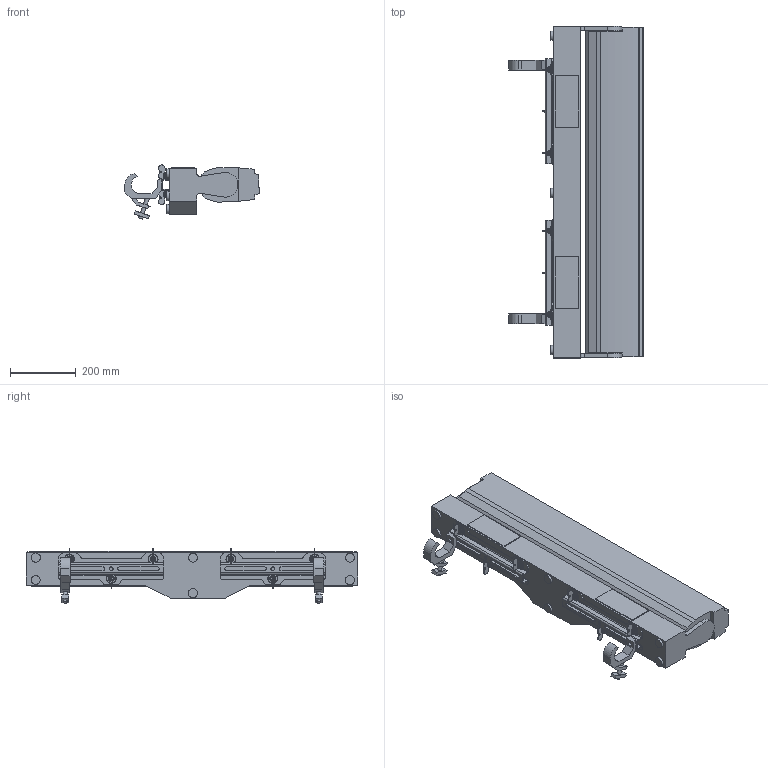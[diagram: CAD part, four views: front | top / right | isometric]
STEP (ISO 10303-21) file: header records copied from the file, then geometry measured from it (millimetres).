
FILE_DESCRIPTION(/* description */ ('Unknown'),/* implementation_level */ '2;1');
FILE_NAME(/* name */ '3D_TETRA2_with CL',/* time_stamp */ '2020-02-20T11:26:52+01:00',/* author */ ('Ing.Rostislav HĂˇba'),/* organization */ ('ROBE lighting'),/* preprocessor_version */ 'ST-DEVELOPER v16.7',/* originating_system */ 'Solid Edge',/* authorisation */ 'Unknown');
FILE_SCHEMA (('AP203_CONFIGURATION_CONTROLLED_3D_DESIGN_OF_MECHANICAL_PARTS_AND_ASSEMBLIES_MIM_LF { 1 0 10303 203 3 1 4 }','AUTOMOTIVE_DESIGN {1 0 10303 214 3 1 1}'));
Length unit declared in the file: millimetre
Products named in the file (12): 3D_TETRA2; TETRA_Base; TETRA_Head; 99016241 Kotevní závìs s CAMLOC 9 - TT; 11017080 Z嫛鮀 TT; 17030135 Talíøová pružina 28; 17030152 Kolík 4x14 DIN1475; 18060293 Šroub CAMLOC 9 s køidélkem - jednostranný; 18060287 Šroub CAMLOC 9+; 11017078 Køidelko CAMLOC 9 - jednostranné; 11017079 Podložení pružin Camlock; Clamp Doughty Slimline QT
Assembly tree (27 placements, depth 4):
  3D_TETRA2
    TETRA_Base
    TETRA_Head
    99016241 Kotevní závìs s CAMLOC 9 - TT  x2
      11017080 Z嫛鮀 TT
      17030135 Talíøová pružina 28
      17030152 Kolík 4x14 DIN1475
      18060293 Šroub CAMLOC 9 s køidélkem - jednostranný
        18060287 Šroub CAMLOC 9+
        11017078 Køidelko CAMLOC 9 - jednostranné
      11017079 Podložení pružin Camlock
    Clamp Doughty Slimline QT  x2
Bounding box: 407.21 x 1007.17 x 164.56 mm (x, y, z)
Volume: 25784646.9 mm3; surface area: 1240628.4 mm2
Topology: 48 solids, 48 shells, 880 faces, 2202 edges, 1454 vertices
Faces by surface type: plane 454, cylinder 266, cone 78, bspline 64, torus 18
Full cylindrical faces by diameter (mm): 4 x12, 4.2 x6, 9.5 x6, 10.2 x18, 11 x14, 12 x14, 17.5 x12, 27.261 x3, 28 x21, 30 x6, 37 x2, 40 x2
Entity records: 13815 total; most frequent: CARTESIAN_POINT 3086, DIRECTION 2148, ORIENTED_EDGE 2088, EDGE_CURVE 1044, AXIS2_PLACEMENT_3D 728, VERTEX_POINT 716, LINE 692, VECTOR 692
